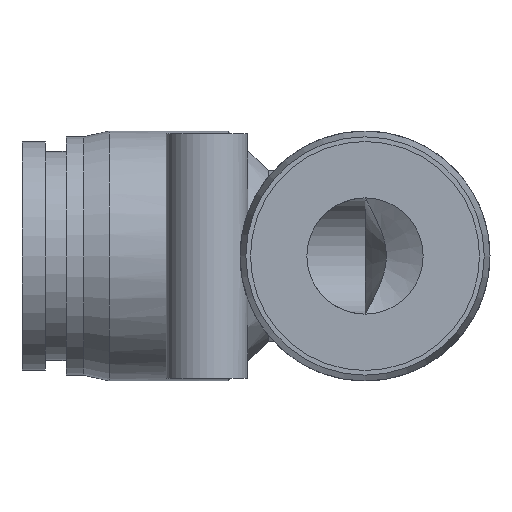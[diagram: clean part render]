
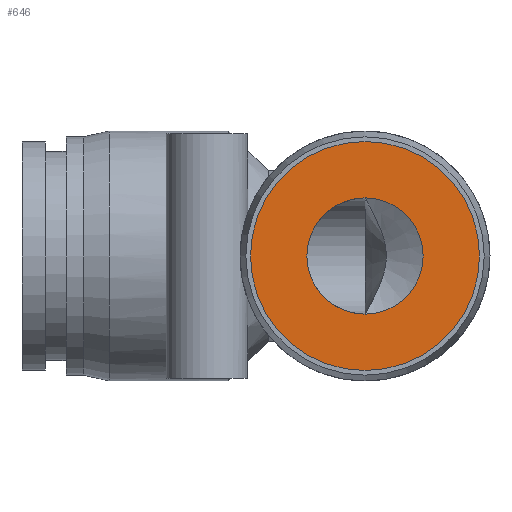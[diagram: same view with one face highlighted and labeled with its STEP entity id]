
A CAD part, front view. The second image highlights one B-rep face of the part: STEP entity #646.
In plain terms, the highlighted planar face has unit normal (0, -1, 0).
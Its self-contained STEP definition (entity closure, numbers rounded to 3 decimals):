
#548=CARTESIAN_POINT('',(-5.0,-29.5,0.));
#549=VERTEX_POINT('',#548);
#550=CARTESIAN_POINT('',(0.0,-29.5,0.0));
#551=DIRECTION('',(0.0,1.0,0.0));
#552=DIRECTION('',(1.0,0.0,0.0));
#553=AXIS2_PLACEMENT_3D('',#550,#551,#552);
#554=CIRCLE('',#553,5.0);
#555=EDGE_CURVE('',#549,#549,#554,.T.);
#627=CARTESIAN_POINT('',(-4.925,-29.5,0.0));
#628=DIRECTION('',(0.0,-1.0,0.0));
#629=DIRECTION('',(0.0,0.0,1.0));
#630=AXIS2_PLACEMENT_3D('',#627,#628,#629);
#631=PLANE('',#630);
#632=CARTESIAN_POINT('',(-9.85,-29.5,0.0));
#633=VERTEX_POINT('',#632);
#634=CARTESIAN_POINT('',(0.,-29.5,0.0));
#635=DIRECTION('',(0.0,1.0,0.0));
#636=DIRECTION('',(-1.0,0.0,0.0));
#637=AXIS2_PLACEMENT_3D('',#634,#635,#636);
#638=CIRCLE('',#637,9.85);
#639=EDGE_CURVE('',#633,#633,#638,.T.);
#640=ORIENTED_EDGE('',*,*,#639,.F.);
#641=EDGE_LOOP('',(#640));
#642=FACE_OUTER_BOUND('',#641,.T.);
#643=ORIENTED_EDGE('',*,*,#555,.T.);
#644=EDGE_LOOP('',(#643));
#645=FACE_BOUND('',#644,.T.);
#646=ADVANCED_FACE('',(#642,#645),#631,.T.);
